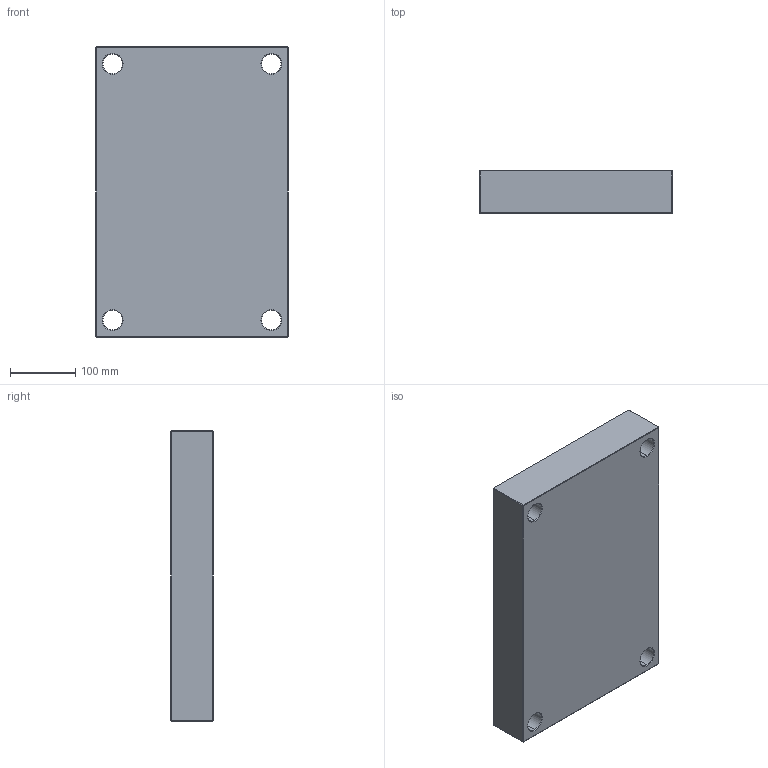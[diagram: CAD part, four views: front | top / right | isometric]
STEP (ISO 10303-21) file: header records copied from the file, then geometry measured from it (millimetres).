
FILE_DESCRIPTION (( 'STEP AP214' ), '1' );
FILE_NAME ('PC-296x446x66.STEP', '2020-04-21T16:42:27', ( 'August' ), ( '' ), 'SwSTEP 2.0', 'SolidWorks 2018', '' );
FILE_SCHEMA (( 'AUTOMOTIVE_DESIGN' ));
Length unit declared in the file: millimetre
Products named in the file (1): PC-296x446x66
Bounding box: 296 x 66 x 446 mm (x, y, z)
Volume: 8505637.1 mm3; surface area: 382841.8 mm2
Topology: 1 solids, 1 shells, 82 faces, 168 edges, 96 vertices
Faces by surface type: plane 34, cone 24, cylinder 24
Entity records: 2170 total; most frequent: DIRECTION 406, CARTESIAN_POINT 347, ORIENTED_EDGE 336, EDGE_CURVE 168, AXIS2_PLACEMENT_3D 155, EDGE_LOOP 98, LINE 96, VERTEX_POINT 96
